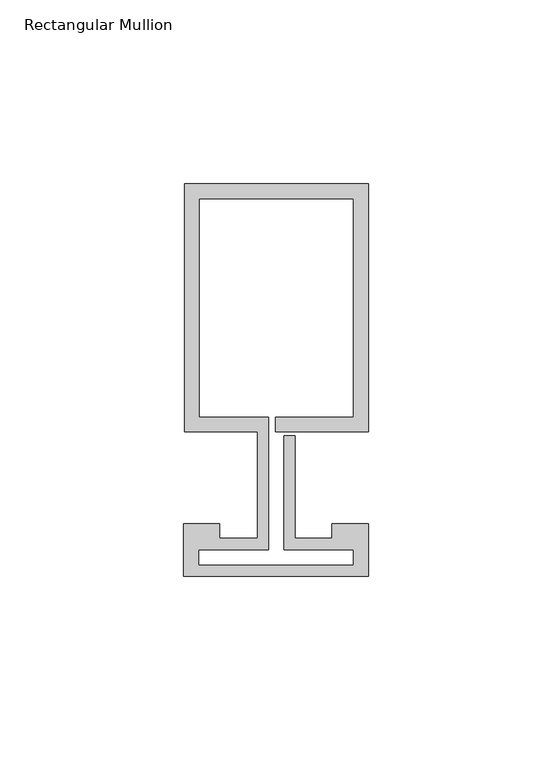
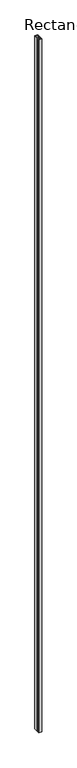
"""IFC4 building model written with IfcOpenShell, lengths in millimetres: member geometry, Rectangular Mullion : Reynaers_CW-50_Mullion-Transom_Horizontal_67.4mm_Facecap-02A."""

import ifcopenshell
import ifcopenshell.guid

model = None  # the IFC model being written
_history = None  # IfcOwnerHistory: only IFC2X3 demands one
_inside = {}  # id of a spatial element -> (the spatial element, [elements in it])
_under = {}  # id of a project, library or spatial element -> (it, [spatial elements below it])
_declared = {}  # id of a project -> (the project, [libraries it declares])
_typed = {}  # id of a type object -> (the type object, [elements of that type])
_made_of = {}  # id of a material, layer set ... -> (it, [elements and type objects made of it])


def new_model(schema):
    """Start an empty IFC model of exactly this schema.

    Asked for "IFC4X3", IfcOpenShell would pick the latest addendum, in which some entities
    have other attributes; the version numbers below select the first issue.
    IFC2X3 requires an IfcOwnerHistory on every rooted entity: one is made here for all.
    """
    global model, _history
    if schema == "IFC4X3":
        model = ifcopenshell.file(schema_version=(4, 3, 0, 0))
    else:
        model = ifcopenshell.file(schema=schema)
    _inside.clear()
    _under.clear()
    _declared.clear()
    _typed.clear()
    _made_of.clear()
    _history = None
    if model.schema == "IFC2X3":
        org = make("IfcOrganization", Name="unknown")
        user = make(
            "IfcPersonAndOrganization",
            ThePerson=make("IfcPerson", FamilyName="unknown"),
            TheOrganization=org,
        )
        app = make(
            "IfcApplication",
            ApplicationDeveloper=org,
            Version="unknown",
            ApplicationFullName="unknown",
            ApplicationIdentifier="unknown",
        )
        _history = make(
            "IfcOwnerHistory",
            OwningUser=user,
            OwningApplication=app,
            ChangeAction="ADDED",
            CreationDate=0,
        )
    return model


def make(cls, **values):
    """One entity of the class cls with the attributes given. An attribute that is None is left unset."""
    return model.create_entity(
        cls, **{name: value for name, value in values.items() if value is not None}
    )


def rooted(cls, **values):
    """An entity with a GlobalId (a new one), such as an element, a storey or a relation."""
    return make(cls, GlobalId=ifcopenshell.guid.new(), OwnerHistory=_history, **values)


def si_unit(unit_type, name, prefix=None):
    """IfcSIUnit, for example si_unit("LENGTHUNIT", "METRE", prefix="MILLI")."""
    return make("IfcSIUnit", UnitType=unit_type, Prefix=prefix, Name=name)


def assignment(units):
    """IfcUnitAssignment: the units of a project."""
    return None if units is None else make("IfcUnitAssignment", Units=units)


def point(xyz):
    """IfcCartesianPoint."""
    return None if xyz is None else make("IfcCartesianPoint", Coordinates=xyz)


def direction(xyz):
    """IfcDirection."""
    return None if xyz is None else make("IfcDirection", DirectionRatios=xyz)


def frame(location, z_axis=None, x_axis=None):
    """IfcAxis2Placement3D, a coordinate frame: its origin and axes. An axis left out is left unset."""
    return make(
        "IfcAxis2Placement3D",
        Location=point(location),
        Axis=direction(z_axis),
        RefDirection=direction(x_axis),
    )


def origin():
    """The frame at (0, 0, 0) with its axes left unset."""
    return frame((0.0, 0.0, 0.0))


def place(relative_to, where):
    """IfcLocalPlacement: puts the frame where relative to a parent placement (None: the world)."""
    return make(
        "IfcLocalPlacement", PlacementRelTo=relative_to, RelativePlacement=where
    )


def context(
    kind, dimensions, precision=None, world=None, true_north=None, identifier=None
):
    """IfcGeometricRepresentationContext, for example the 3D "Model" context."""
    return make(
        "IfcGeometricRepresentationContext",
        ContextIdentifier=identifier,
        ContextType=kind,
        CoordinateSpaceDimension=dimensions,
        Precision=precision,
        WorldCoordinateSystem=world,
        TrueNorth=true_north,
    )


def project(units=None, contexts=None):
    """IfcProject with its units and contexts."""
    return rooted(
        "IfcProject",
        Name="project",
        RepresentationContexts=contexts,
        UnitsInContext=assignment(units),
    )


def spatial(cls, under=None, at=None, **own):
    """A site, building, storey or space (cls), placed at a placement, below another one or the project."""
    s = rooted(cls, ObjectPlacement=at, **own)
    if under is not None:
        _under.setdefault(under.id(), (under, []))[1].append(s)
    return s


def polyline(points):
    """IfcPolyline through the points."""
    return make("IfcPolyline", Points=[point(p) for p in points])


def outline(outer, holes=None, kind="AREA"):
    """IfcArbitraryClosedProfileDef: a profile drawn as a closed curve; with holes, ...WithVoids."""
    if holes is None:
        return make("IfcArbitraryClosedProfileDef", ProfileType=kind, OuterCurve=outer)
    return make(
        "IfcArbitraryProfileDefWithVoids",
        ProfileType=kind,
        OuterCurve=outer,
        InnerCurves=holes,
    )


def extrude(swept, where, along, depth):
    """IfcExtrudedAreaSolid: the profile swept, set in the frame where, extruded along a direction by depth."""
    return make(
        "IfcExtrudedAreaSolid",
        SweptArea=swept,
        Position=where,
        ExtrudedDirection=direction(along),
        Depth=depth,
    )


def shape(context_of_items, identifier, shape_type, items):
    """IfcShapeRepresentation: the items that make up one representation, for example the "Body"."""
    return make(
        "IfcShapeRepresentation",
        ContextOfItems=context_of_items,
        RepresentationIdentifier=identifier,
        RepresentationType=shape_type,
        Items=items,
    )


def source(mapping_origin, context_of_items, identifier, shape_type, items):
    """IfcRepresentationMap: a shape defined once, which mapped items show again and again."""
    return make(
        "IfcRepresentationMap",
        MappingOrigin=mapping_origin,
        MappedRepresentation=shape(context_of_items, identifier, shape_type, items),
    )


def transform(
    local_origin,
    x_axis=None,
    y_axis=None,
    z_axis=None,
    scale=None,
    scale2=None,
    scale3=None,
    uniform=True,
):
    """IfcCartesianTransformationOperator3D, or its non-uniform kind. x_axis, y_axis, z_axis: its Axis1, 2, 3."""
    if uniform:
        return make(
            "IfcCartesianTransformationOperator3D",
            Axis1=direction(x_axis),
            Axis2=direction(y_axis),
            LocalOrigin=point(local_origin),
            Scale=scale,
            Axis3=direction(z_axis),
        )
    return make(
        "IfcCartesianTransformationOperator3DnonUniform",
        Axis1=direction(x_axis),
        Axis2=direction(y_axis),
        LocalOrigin=point(local_origin),
        Scale=scale,
        Axis3=direction(z_axis),
        Scale2=scale2,
        Scale3=scale3,
    )


def mapped(mapping_source, mapping_target):
    """IfcMappedItem: shows the shape of a source again, moved by a transform."""
    return make(
        "IfcMappedItem", MappingSource=mapping_source, MappingTarget=mapping_target
    )


def made_of(thing, what):
    """Note that an element or type object is made of a material, layer set ...; save() writes the relation."""
    if what is not None:
        _made_of.setdefault(what.id(), (what, []))[1].append(thing)
    return thing


def element(
    cls,
    number,
    at=None,
    inside=None,
    cuts=None,
    type_object=None,
    material=None,
    context=None,
    identifier="Body",
    shape_type=None,
    held_by="IfcProductDefinitionShape",
    body=None,
    shapes=None,
    **own,
):
    """One element of the class cls, such as IfcWall. Its Tag is "e" and its number.

    at: its placement. inside: the storey or other place that contains it. cuts: it is an
    opening in that element (IfcRelVoidsElement). A single representation is given by context,
    identifier, shape_type and body (its items); several are given by shapes. held_by: the class
    of the entity that holds the representations. save() writes the other relations.
    """
    e = rooted(cls, Tag="e%d" % number, ObjectPlacement=at, **own)
    if body is not None:
        shapes = [shape(context, identifier, shape_type, body)]
    if shapes is not None:
        e.Representation = make(held_by, Representations=shapes)
    if inside is not None:
        _inside.setdefault(inside.id(), (inside, []))[1].append(e)
    if cuts is not None:
        rooted(
            "IfcRelVoidsElement", RelatingBuildingElement=cuts, RelatedOpeningElement=e
        )
    if type_object is not None:
        _typed.setdefault(type_object.id(), (type_object, []))[1].append(e)
    return made_of(e, material)


def aggregate(whole, parts):
    """IfcRelAggregates: a whole, such as a stair, and the parts it consists of."""
    return rooted("IfcRelAggregates", RelatingObject=whole, RelatedObjects=parts)


def save(model, path):
    """Write the relations noted so far, then the file.

    IfcRelAggregates (storeys below a building ...), IfcRelContainedInSpatialStructure (elements
    in a storey), IfcRelDefinesByType, IfcRelAssociatesMaterial and IfcRelDeclares: one each for
    every whole, place, type object, material and project.
    """
    for whole, parts in _under.values():
        aggregate(whole, parts)
    for where, things in _inside.values():
        rooted(
            "IfcRelContainedInSpatialStructure",
            RelatedElements=things,
            RelatingStructure=where,
        )
    for kind, things in _typed.values():
        rooted("IfcRelDefinesByType", RelatedObjects=things, RelatingType=kind)
    for what, things in _made_of.values():
        rooted("IfcRelAssociatesMaterial", RelatedObjects=things, RelatingMaterial=what)
    for by, libraries in _declared.values():
        rooted("IfcRelDeclares", RelatingContext=by, RelatedDefinitions=libraries)
    model.write(path)


def rectangular_mullion_597678e5(model_context):
    return source(origin(), model_context, "Body", "SweptSolid", [
        extrude(outline(polyline([(-24.8004059, 79.9), (25.1995941, 79.9), (25.1995941, 12.5), (0.0, 12.5), (0.0, 16.5), (21.1995941, 16.5), (21.1995941, 75.9), (-20.8004059, 75.9), (-20.8004059, 16.5), (-1.9004059, 16.5), (-1.9004059, -19.5), (-20.994845, -19.5), (-20.994845, -23.7191338), (21.1995941, -23.7191338), (21.1995941, -19.5), (2.2995941, -19.5), (2.2995941, 11.5), (5.2995941, 11.5), (5.2995941, -16.5), (15.2996495, -16.5), (15.2996495, -12.5), (25.1995941, -12.5), (25.1995941, -26.8), (-24.994845, -26.8), (-24.994845, -12.5), (-15.2996495, -12.5), (-15.2996495, -16.5), (-4.9004059, -16.5), (-4.9004059, 12.5), (-24.8004059, 12.5), (-24.8004059, 79.9)])), frame((0.0, 0.0, -12000.0), z_axis=(0.0, 0.0, 1.0), x_axis=(1.0, 0.0, 0.0)), (0.0, 0.0, 1.0), 12000.0),
    ])


if __name__ == "__main__":
    model = new_model("IFC4")
    model_context = context("Model", 3, world=origin())
    ifc_project = project(units=[si_unit("LENGTHUNIT", "METRE", prefix="MILLI")], contexts=[model_context])
    site = spatial("IfcSite", under=ifc_project)
    building = spatial("IfcBuilding", under=site)
    placement = place(None, origin())
    rectangular_mullion_shape = rectangular_mullion_597678e5(model_context)
    element("IfcMember", 1, ObjectType="Rectangular Mullion : Reynaers_CW-50_Mullion-Transom_Horizontal_67.4mm_Facecap-02A", at=placement, inside=building, context=model_context, shape_type="MappedRepresentation", body=[
        mapped(rectangular_mullion_shape, transform((0.0, 0.0, 0.0), x_axis=(1.0, 0.0, 0.0), y_axis=(0.0, 1.0, 0.0), z_axis=(0.0, 0.0, 1.0))),
    ])
    save(model, "model.ifc")
